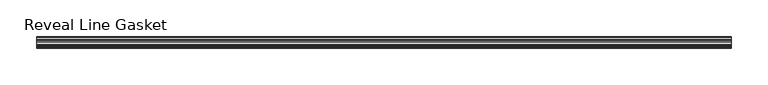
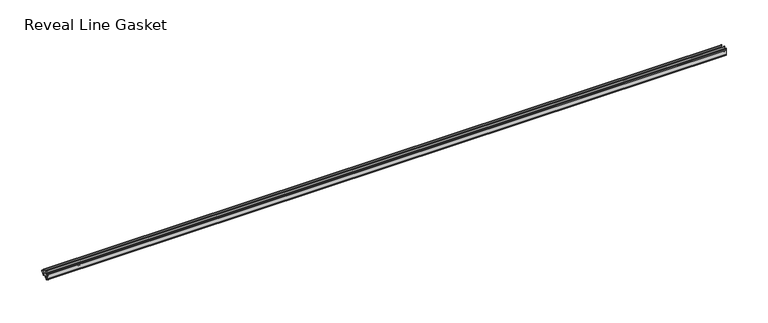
"""IFC4 building model written with IfcOpenShell, lengths in millimetres: proxy geometry, Accessories-Teknion-FHGR-AI_Healthcare-Reveal_Line_Gasket(Horizontal)-R2022 : Reveal Line Gasket."""

from ifc_helpers import new_model, si_unit, point, frame, frame_2d, origin, place, context, project, spatial, polyline, circle_curve, trimmed, segment, composite_curve, outline, extrude, source, transform, mapped, element, save


def reveal_line_gasket_61a7edba(model_context):
    return source(origin(), model_context, "Body", "SweptSolid", [
        extrude(outline(composite_curve([segment(polyline([(-7.6326998, 1603.2), (-7.4091917, 1604.1554927), (-6.8813059, 1605.0884684)]), True, "CONTINUOUS"), segment(trimmed(circle_curve(frame_2d((-6.5243141, 1604.8864793)), 0.4101739), [point((-6.8813059, 1605.0884684))], [point((-6.1246704, 1604.7941347))], False, "CARTESIAN"), True, "CONTINUOUS"), segment(polyline([(-6.1246704, 1604.7941347), (-6.3626997, 1603.0979086), (-6.3626997, 1601.0654527)]), True, "CONTINUOUS"), segment(trimmed(circle_curve(frame_2d((-5.6959605, 1601.4819258)), 0.786124), [point((-6.3626997, 1601.0654527))], [point((-5.0926996, 1600.977875))], True, "CARTESIAN"), True, "CONTINUOUS"), segment(polyline([(-5.0926996, 1600.977875), (-0.7492996, 1600.977875), (-3.7293824, 1606.1395295)]), True, "CONTINUOUS"), segment(trimmed(circle_curve(frame_2d((-3.3132479, 1606.2049761)), 0.4212495), [point((-3.7293824, 1606.1395295))], [point((-3.0485022, 1606.5326358))], False, "CARTESIAN"), True, "CONTINUOUS"), segment(polyline([(-3.0485022, 1606.5326358), (0.5742594, 1600.977875), (4.8262978, 1600.977875), (3.1660374, 1603.8535297)]), True, "CONTINUOUS"), segment(trimmed(circle_curve(frame_2d((3.5978728, 1603.9118855)), 0.4357605), [point((3.1660374, 1603.8535297))], [point((3.864328, 1604.2566881))], False, "CARTESIAN"), True, "CONTINUOUS"), segment(polyline([(3.864328, 1604.2566881), (6.1944059, 1600.977875), (7.6326998, 1600.977875), (7.6326998, 1599.422125), (6.1944059, 1599.422125), (3.864328, 1596.1433119)]), True, "CONTINUOUS"), segment(trimmed(circle_curve(frame_2d((3.5978728, 1596.4881145)), 0.4357605), [point((3.864328, 1596.1433119))], [point((3.1660374, 1596.5464703))], False, "CARTESIAN"), True, "CONTINUOUS"), segment(polyline([(3.1660374, 1596.5464703), (4.8262978, 1599.422125), (0.5742594, 1599.422125), (-3.0485022, 1593.8673642)]), True, "CONTINUOUS"), segment(trimmed(circle_curve(frame_2d((-3.3132479, 1594.1950239)), 0.4212495), [point((-3.0485022, 1593.8673642))], [point((-3.7293824, 1594.2604705))], False, "CARTESIAN"), True, "CONTINUOUS"), segment(polyline([(-3.7293824, 1594.2604705), (-0.7492996, 1599.422125), (-5.0926996, 1599.422125)]), True, "CONTINUOUS"), segment(trimmed(circle_curve(frame_2d((-5.6959605, 1598.9180742)), 0.786124), [point((-5.0926996, 1599.422125))], [point((-6.3626997, 1599.3345473))], True, "CARTESIAN"), True, "CONTINUOUS"), segment(polyline([(-6.3626997, 1599.3345473), (-6.3626997, 1597.3020914), (-6.1246704, 1595.6058653)]), True, "CONTINUOUS"), segment(trimmed(circle_curve(frame_2d((-6.5243141, 1595.5135207)), 0.4101739), [point((-6.1246704, 1595.6058653))], [point((-6.8813059, 1595.3115316))], False, "CARTESIAN"), True, "CONTINUOUS"), segment(polyline([(-6.8813059, 1595.3115316), (-7.4091917, 1596.2445073), (-7.6326998, 1597.2), (-7.6326998, 1603.2)]), True, "CONTINUOUS")], self_intersect=False)), frame((-471.2750006, 0.0, 0.0), z_axis=(1.0, 0.0, 0.0), x_axis=(0.0, 1.0, 0.0)), (0.0, 0.0, 1.0), 942.5500012),
    ])


if __name__ == "__main__":
    model = new_model("IFC4")
    model_context = context("Model", 3, world=origin())
    ifc_project = project(units=[si_unit("LENGTHUNIT", "METRE", prefix="MILLI")], contexts=[model_context])
    site = spatial("IfcSite", under=ifc_project)
    building = spatial("IfcBuilding", under=site)
    placement = place(None, origin())
    reveal_line_gasket_shape = reveal_line_gasket_61a7edba(model_context)
    element("IfcBuildingElementProxy", 1, Name="Accessories-Teknion-FHGR-AI_Healthcare-Reveal_Line_Gasket(Horizontal)-R2022 : Reveal Line Gasket", ObjectType="Accessories-Teknion-FHGR-AI_Healthcare-Reveal_Line_Gasket(Horizontal)-R2022 : Reveal Line Gasket", at=placement, inside=building, context=model_context, shape_type="MappedRepresentation", body=[
        mapped(reveal_line_gasket_shape, transform((0.0, 0.0, 0.0), x_axis=(1.0, 0.0, 0.0), y_axis=(0.0, 1.0, 0.0), z_axis=(0.0, 0.0, 1.0))),
    ])
    save(model, "model.ifc")
